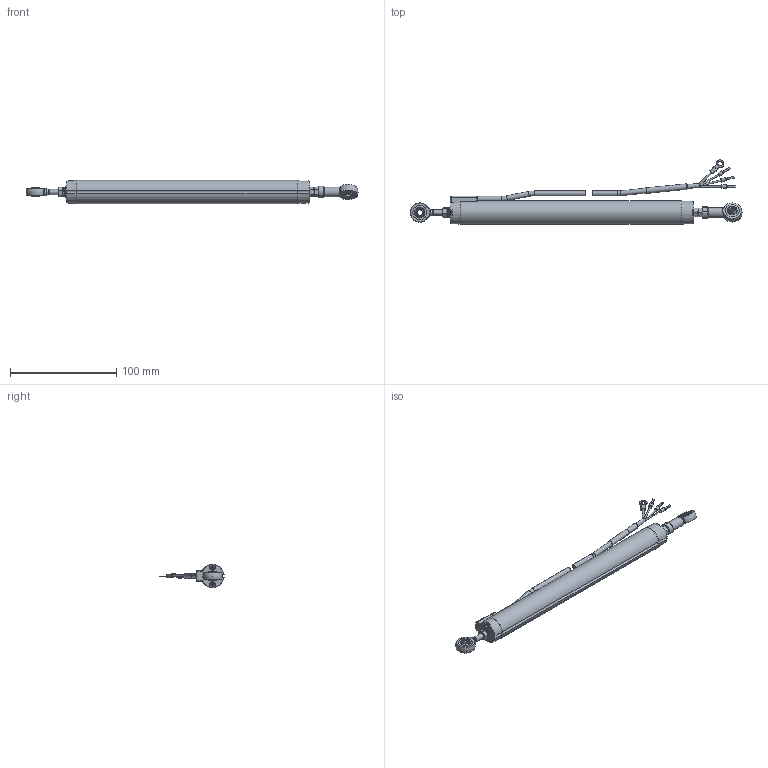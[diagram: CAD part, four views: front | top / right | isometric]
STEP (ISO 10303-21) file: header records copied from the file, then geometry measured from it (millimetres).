
FILE_DESCRIPTION(/* description */ (''),/* implementation_level */ '2;1');
FILE_NAME(/* name */ 'C:\Users\TSC_Brendan\Desktop\LPPS-22-175\LPPS-22-175 SW.stp',/* time_stamp */ '2021-10-18T13:26:54-04:00',/* author */ ('TSC_Brendan'),/* organization */ (''),/* preprocessor_version */ 'ST-DEVELOPER v18.1',/* originating_system */ 'Autodesk Inventor 2022',/* authorisation */ '');
FILE_SCHEMA (('AUTOMOTIVE_DESIGN { 1 0 10303 214 3 1 1 }'));
Length unit declared in the file: inch
Products named in the file (4): LPPS-22-175 SW; LPPS-22-175 Housing Simplify; LPPS-22-175 Shaft Simplify; LPPS-22-175_Cable Simplify
Assembly tree (3 placements, depth 2):
  LPPS-22-175 SW
    LPPS-22-175 Housing Simplify
    LPPS-22-175 Shaft Simplify
    LPPS-22-175_Cable Simplify
Bounding box: 312.47 x 60.43 x 21.96 mm (x, y, z)
Volume: 52960.2 mm3; surface area: 49374.7 mm2
Topology: 30 solids, 30 shells, 757 faces, 2739 edges, 2048 vertices
Faces by surface type: cylinder 349, plane 202, cone 142, bspline 28, torus 22, sphere 14
Full cylindrical faces by diameter (mm): 1.27 x3, 1.48 x96, 1.575 x2, 2 x92, 2.286 x5, 3.175 x5, 3.81 x1, 3.881 x1, 4 x4, 4.134 x1, 4.191 x1, 4.342 x12, 4.572 x5, 4.826 x3, 4.851 x1, 4.953 x1, 5 x15, 5.004 x2, 5.08 x1, 5.207 x1, 5.3 x1, 6.35 x2, 9.144 x1, 10 x1, 12.675 x4, 12.7 x1, 15.875 x2, 17.78 x1
Entity records: 45074 total; most frequent: CARTESIAN_POINT 23734, ORIENTED_EDGE 5444, DIRECTION 3368, EDGE_CURVE 2722, VERTEX_POINT 2048, AXIS2_PLACEMENT_3D 1373, EDGE_LOOP 826, STYLED_ITEM 787
